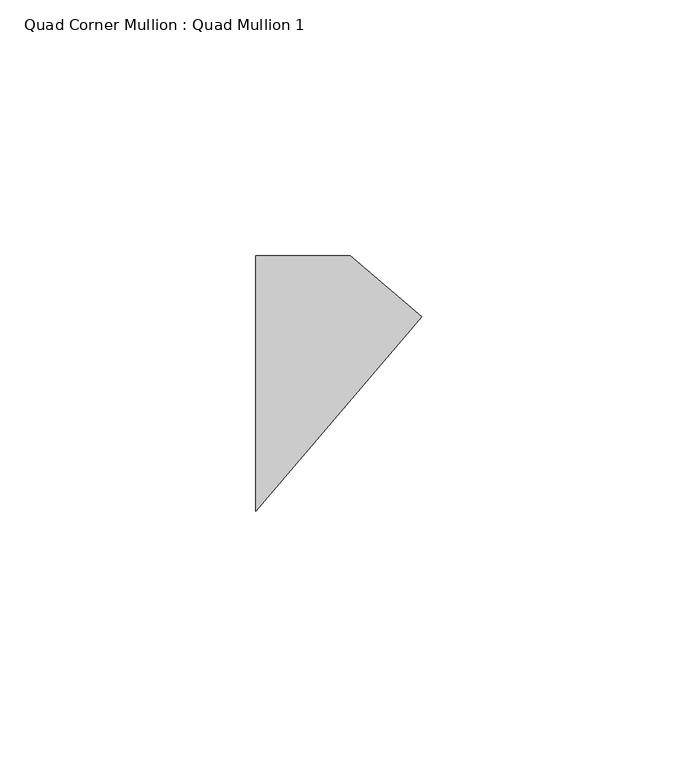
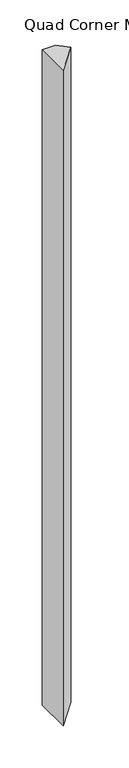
"""IFC4 building model written with IfcOpenShell, lengths in millimetres: member geometry, Quad Corner Mullion : Quad Mullion 1."""

from ifc_helpers import new_model, si_unit, frame, origin, place, context, project, spatial, polyline, outline, extrude, source, transform, mapped, element, save


def quad_corner_mullion_quad_mullion_1_1ccfd098(model_context):
    return source(origin(), model_context, "Body", "SweptSolid", [
        extrude(outline(polyline([(23.250214, 13.0192096), (-9.223463, -25.0), (-9.223463, 25.0), (9.223463, 25.0), (23.250214, 13.0192096)])), frame((0.0, 0.0, -950.0), z_axis=(0.0, 0.0, 1.0), x_axis=(1.0, 0.0, 0.0)), (0.0, 0.0, 1.0), 950.0),
    ])


if __name__ == "__main__":
    model = new_model("IFC4")
    model_context = context("Model", 3, world=origin())
    ifc_project = project(units=[si_unit("LENGTHUNIT", "METRE", prefix="MILLI")], contexts=[model_context])
    site = spatial("IfcSite", under=ifc_project)
    building = spatial("IfcBuilding", under=site)
    placement = place(None, origin())
    quad_corner_mullion_quad_mullion_1_shape = quad_corner_mullion_quad_mullion_1_1ccfd098(model_context)
    element("IfcMember", 1, ObjectType="Quad Corner Mullion : Quad Mullion 1", at=placement, inside=building, context=model_context, shape_type="MappedRepresentation", body=[
        mapped(quad_corner_mullion_quad_mullion_1_shape, transform((0.0, 0.0, 0.0), x_axis=(1.0, 0.0, 0.0), y_axis=(0.0, 1.0, 0.0), z_axis=(0.0, 0.0, 1.0))),
    ])
    save(model, "model.ifc")
